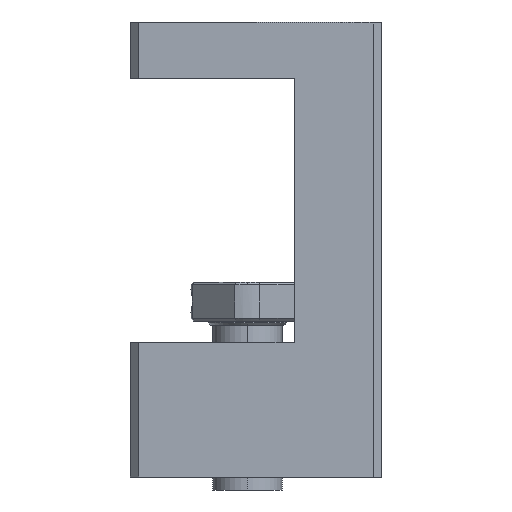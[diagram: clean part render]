
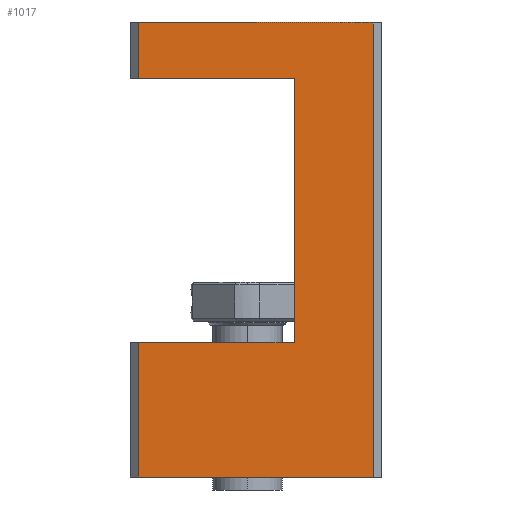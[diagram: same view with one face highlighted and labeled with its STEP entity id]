
A CAD part, left-side view. The second image highlights one B-rep face of the part: STEP entity #1017.
In plain terms, the highlighted planar face has unit normal (-1, 0, 0).
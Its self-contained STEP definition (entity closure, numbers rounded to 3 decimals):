
#81 = EDGE_CURVE ( 'NONE', #9791, #4955, #2832, .T. ) ;
#186 = CARTESIAN_POINT ( 'NONE',  ( -17., 12.5, 52.5 ) ) ;
#280 = LINE ( 'NONE', #186, #2498 ) ;
#513 = DIRECTION ( 'NONE',  ( 0., -1., 0. ) ) ;
#1017 = ADVANCED_FACE ( 'NONE', ( #5412 ), #8487, .F. ) ;
#1061 = CARTESIAN_POINT ( 'NONE',  ( -17., -14.5, 52.5 ) ) ;
#1076 = VERTEX_POINT ( 'NONE', #1061 ) ;
#1272 = VERTEX_POINT ( 'NONE', #3592 ) ;
#1620 = DIRECTION ( 'NONE',  ( 0., 0., 1. ) ) ;
#1709 = CARTESIAN_POINT ( 'NONE',  ( -17., 12.5, 15.5 ) ) ;
#1740 = DIRECTION ( 'NONE',  ( 0., 0., -1. ) ) ;
#1864 = LINE ( 'NONE', #8827, #4728 ) ;
#2029 = EDGE_CURVE ( 'NONE', #2396, #9791, #1864, .T. ) ;
#2123 = ORIENTED_EDGE ( 'NONE', *, *, #8543, .F. ) ;
#2396 = VERTEX_POINT ( 'NONE', #1709 ) ;
#2498 = VECTOR ( 'NONE', #1740, 1000. ) ;
#2556 = DIRECTION ( 'NONE',  ( 0., -1., 0. ) ) ;
#2600 = CARTESIAN_POINT ( 'NONE',  ( -17., -5.5, 15.5 ) ) ;
#2665 = ORIENTED_EDGE ( 'NONE', *, *, #2029, .T. ) ;
#2689 = VERTEX_POINT ( 'NONE', #6956 ) ;
#2818 = EDGE_CURVE ( 'NONE', #1272, #4439, #3266, .T. ) ;
#2832 = LINE ( 'NONE', #5954, #5333 ) ;
#3266 = LINE ( 'NONE', #4119, #4593 ) ;
#3437 = LINE ( 'NONE', #8782, #9137 ) ;
#3538 = VECTOR ( 'NONE', #1620, 1000. ) ;
#3592 = CARTESIAN_POINT ( 'NONE',  ( -17., 12.5, 46. ) ) ;
#3610 = DIRECTION ( 'NONE',  ( 0., 0., 1. ) ) ;
#4119 = CARTESIAN_POINT ( 'NONE',  ( -17., 13.5, 46. ) ) ;
#4208 = CARTESIAN_POINT ( 'NONE',  ( -17., 12.5, 0. ) ) ;
#4331 = EDGE_CURVE ( 'NONE', #2689, #1272, #280, .T. ) ;
#4439 = VERTEX_POINT ( 'NONE', #7241 ) ;
#4593 = VECTOR ( 'NONE', #2556, 1000. ) ;
#4728 = VECTOR ( 'NONE', #4945, 1000. ) ;
#4779 = EDGE_CURVE ( 'NONE', #9881, #2396, #8688, .T. ) ;
#4945 = DIRECTION ( 'NONE',  ( 0., 0., -1. ) ) ;
#4955 = VERTEX_POINT ( 'NONE', #9832 ) ;
#5051 = ORIENTED_EDGE ( 'NONE', *, *, #4331, .T. ) ;
#5333 = VECTOR ( 'NONE', #513, 1000. ) ;
#5373 = ORIENTED_EDGE ( 'NONE', *, *, #8877, .F. ) ;
#5412 = FACE_OUTER_BOUND ( 'NONE', #9354, .T. ) ;
#5954 = CARTESIAN_POINT ( 'NONE',  ( -17., 13.5, 0. ) ) ;
#6070 = LINE ( 'NONE', #6828, #3538 ) ;
#6186 = VECTOR ( 'NONE', #8587, 1000. ) ;
#6222 = DIRECTION ( 'NONE',  ( 1., 0., 0. ) ) ;
#6376 = CARTESIAN_POINT ( 'NONE',  ( -17., 13.5, 15.5 ) ) ;
#6686 = CARTESIAN_POINT ( 'NONE',  ( -17., -5.5, 52.5 ) ) ;
#6828 = CARTESIAN_POINT ( 'NONE',  ( -17., -14.5, 52.5 ) ) ;
#6956 = CARTESIAN_POINT ( 'NONE',  ( -17., 12.5, 52.5 ) ) ;
#7196 = ORIENTED_EDGE ( 'NONE', *, *, #2818, .T. ) ;
#7241 = CARTESIAN_POINT ( 'NONE',  ( -17., -5.5, 46. ) ) ;
#7377 = EDGE_CURVE ( 'NONE', #4955, #1076, #6070, .T. ) ;
#7928 = CARTESIAN_POINT ( 'NONE',  ( -17., 13.5, 52.5 ) ) ;
#8123 = ORIENTED_EDGE ( 'NONE', *, *, #7377, .T. ) ;
#8348 = LINE ( 'NONE', #6686, #9937 ) ;
#8487 = PLANE ( 'NONE',  #8842 ) ;
#8543 = EDGE_CURVE ( 'NONE', #9881, #4439, #8348, .T. ) ;
#8582 = DIRECTION ( 'NONE',  ( 0., 1., 0. ) ) ;
#8587 = DIRECTION ( 'NONE',  ( 0., 1., 0. ) ) ;
#8688 = LINE ( 'NONE', #6376, #6186 ) ;
#8739 = DIRECTION ( 'NONE',  ( 0., -1., 0. ) ) ;
#8782 = CARTESIAN_POINT ( 'NONE',  ( -17., 13.5, 52.5 ) ) ;
#8827 = CARTESIAN_POINT ( 'NONE',  ( -17., 12.5, 52.5 ) ) ;
#8842 = AXIS2_PLACEMENT_3D ( 'NONE', #7928, #6222, #8582 ) ;
#8877 = EDGE_CURVE ( 'NONE', #2689, #1076, #3437, .T. ) ;
#8981 = ORIENTED_EDGE ( 'NONE', *, *, #81, .T. ) ;
#9137 = VECTOR ( 'NONE', #8739, 1000. ) ;
#9354 = EDGE_LOOP ( 'NONE', ( #2123, #9364, #2665, #8981, #8123, #5373, #5051, #7196 ) ) ;
#9364 = ORIENTED_EDGE ( 'NONE', *, *, #4779, .T. ) ;
#9791 = VERTEX_POINT ( 'NONE', #4208 ) ;
#9832 = CARTESIAN_POINT ( 'NONE',  ( -17., -14.5, 0. ) ) ;
#9881 = VERTEX_POINT ( 'NONE', #2600 ) ;
#9937 = VECTOR ( 'NONE', #3610, 1000. ) ;
